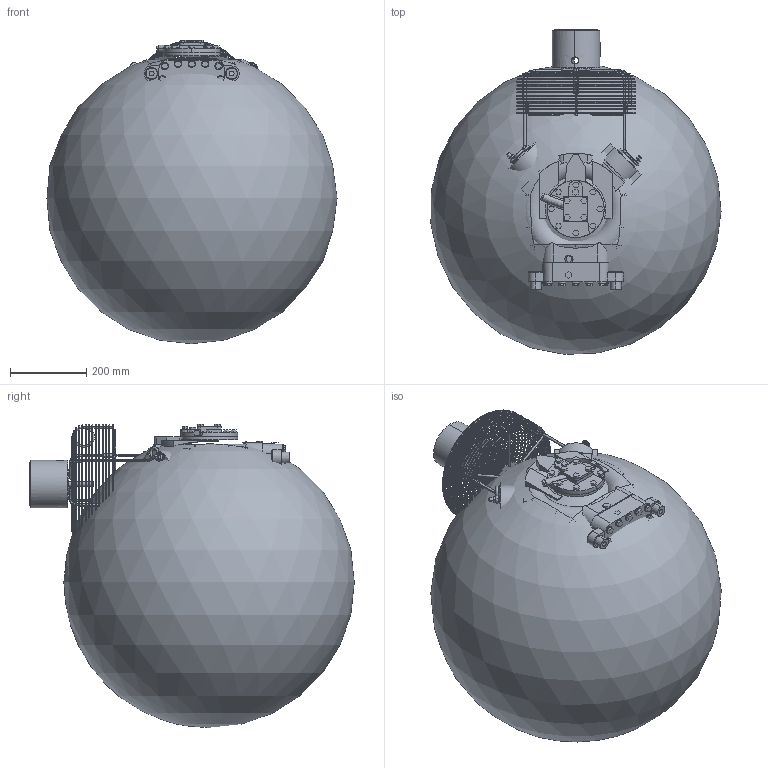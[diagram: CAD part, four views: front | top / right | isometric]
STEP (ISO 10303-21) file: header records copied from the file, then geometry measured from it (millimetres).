
FILE_DESCRIPTION((''),'2;1');
FILE_NAME('06D41EC9F_SV_4FN_SW_1','2004-01-23T',('manikandanm'),(''),'PRO/ENGINEER BY PARAMETRIC TECHNOLOGY CORPORATION, 2001280','PRO/ENGINEER BY PARAMETRIC TECHNOLOGY CORPORATION, 2001280','');
FILE_SCHEMA(('CONFIG_CONTROL_DESIGN','SHAPE_APPEARANCE_LAYERS_GROUPS'));
Products named in the file (1): 06D41EC9F_SV_4FN_SW_1
Bounding box: 760.01 x 850.01 x 794.92 mm (x, y, z)
Surface area: 6527475.3 mm2 (no closed solid volume)
Topology: 0 solids, 0 shells, 1543 faces, 8192 edges, 8028 vertices
Faces by surface type: bspline 1383, torus 147, sphere 13
Entity records: 257884 total; most frequent: CARTESIAN_POINT 161801, DIRECTION 11089, TRIMMED_CURVE 9538, VECTOR 8307, LINE 8307, DEFINITIONAL_REPRESENTATION 7879, PCURVE 7879, COMPOSITE_CURVE_SEGMENT 7879
